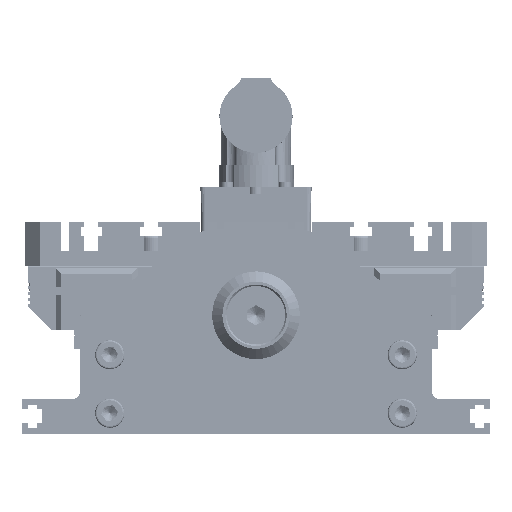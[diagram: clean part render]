
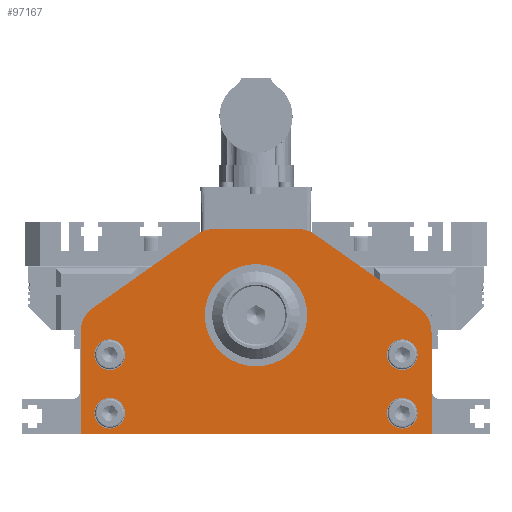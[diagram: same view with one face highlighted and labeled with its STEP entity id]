
A CAD part, front view. The second image highlights one B-rep face of the part: STEP entity #97167.
In plain terms, the highlighted planar face has unit normal (0, -1, 0).
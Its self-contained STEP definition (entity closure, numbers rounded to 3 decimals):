
#3342=FACE_BOUND('',#12644,.T.);
#3343=FACE_BOUND('',#12645,.T.);
#3344=FACE_BOUND('',#12646,.T.);
#3345=FACE_BOUND('',#12647,.T.);
#3346=FACE_BOUND('',#12648,.T.);
#7179=FACE_OUTER_BOUND('',#12643,.T.);
#12643=EDGE_LOOP('',(#79929,#79930,#79931,#79932,#79933,#79934,#79935,#79936,
#79937,#79938));
#12644=EDGE_LOOP('',(#79939,#79940));
#12645=EDGE_LOOP('',(#79941,#79942));
#12646=EDGE_LOOP('',(#79943,#79944));
#12647=EDGE_LOOP('',(#79945,#79946));
#12648=EDGE_LOOP('',(#79947,#79948));
#21171=LINE('',#161740,#29584);
#21173=LINE('',#161744,#29586);
#21174=LINE('',#161748,#29587);
#21175=LINE('',#161750,#29588);
#21176=LINE('',#161752,#29589);
#21177=LINE('',#161756,#29590);
#29584=VECTOR('',#128377,10.);
#29586=VECTOR('',#128381,10.);
#29587=VECTOR('',#128384,10.);
#29588=VECTOR('',#128385,10.);
#29589=VECTOR('',#128386,10.);
#29590=VECTOR('',#128389,10.);
#33921=CIRCLE('',#105271,10.);
#33922=CIRCLE('',#105274,10.);
#33923=CIRCLE('',#105275,10.);
#33924=CIRCLE('',#105276,10.);
#33925=CIRCLE('',#105277,5.25);
#33926=CIRCLE('',#105278,5.25);
#33927=CIRCLE('',#105279,5.25);
#33928=CIRCLE('',#105280,5.25);
#33929=CIRCLE('',#105281,5.25);
#33930=CIRCLE('',#105282,5.25);
#33931=CIRCLE('',#105283,5.25);
#33932=CIRCLE('',#105284,5.25);
#33933=CIRCLE('',#105285,17.5);
#33934=CIRCLE('',#105286,17.5);
#42627=VERTEX_POINT('',#161733);
#42628=VERTEX_POINT('',#161734);
#42629=VERTEX_POINT('',#161739);
#42630=VERTEX_POINT('',#161743);
#42631=VERTEX_POINT('',#161745);
#42632=VERTEX_POINT('',#161747);
#42633=VERTEX_POINT('',#161749);
#42634=VERTEX_POINT('',#161751);
#42635=VERTEX_POINT('',#161753);
#42636=VERTEX_POINT('',#161755);
#42637=VERTEX_POINT('',#161758);
#42638=VERTEX_POINT('',#161759);
#42639=VERTEX_POINT('',#161762);
#42640=VERTEX_POINT('',#161763);
#42641=VERTEX_POINT('',#161766);
#42642=VERTEX_POINT('',#161767);
#42643=VERTEX_POINT('',#161770);
#42644=VERTEX_POINT('',#161771);
#42645=VERTEX_POINT('',#161774);
#42646=VERTEX_POINT('',#161775);
#55516=EDGE_CURVE('',#42627,#42628,#33921,.T.);
#55519=EDGE_CURVE('',#42629,#42628,#21171,.T.);
#55521=EDGE_CURVE('',#42627,#42630,#21173,.T.);
#55522=EDGE_CURVE('',#42631,#42630,#33922,.T.);
#55523=EDGE_CURVE('',#42631,#42632,#21174,.T.);
#55524=EDGE_CURVE('',#42632,#42633,#21175,.T.);
#55525=EDGE_CURVE('',#42633,#42634,#21176,.T.);
#55526=EDGE_CURVE('',#42635,#42634,#33923,.T.);
#55527=EDGE_CURVE('',#42635,#42636,#21177,.T.);
#55528=EDGE_CURVE('',#42629,#42636,#33924,.T.);
#55529=EDGE_CURVE('',#42637,#42638,#33925,.T.);
#55530=EDGE_CURVE('',#42638,#42637,#33926,.T.);
#55531=EDGE_CURVE('',#42639,#42640,#33927,.T.);
#55532=EDGE_CURVE('',#42640,#42639,#33928,.T.);
#55533=EDGE_CURVE('',#42641,#42642,#33929,.T.);
#55534=EDGE_CURVE('',#42642,#42641,#33930,.T.);
#55535=EDGE_CURVE('',#42643,#42644,#33931,.T.);
#55536=EDGE_CURVE('',#42644,#42643,#33932,.T.);
#55537=EDGE_CURVE('',#42645,#42646,#33933,.T.);
#55538=EDGE_CURVE('',#42646,#42645,#33934,.T.);
#79929=ORIENTED_EDGE('',*,*,#55516,.F.);
#79930=ORIENTED_EDGE('',*,*,#55521,.T.);
#79931=ORIENTED_EDGE('',*,*,#55522,.F.);
#79932=ORIENTED_EDGE('',*,*,#55523,.T.);
#79933=ORIENTED_EDGE('',*,*,#55524,.T.);
#79934=ORIENTED_EDGE('',*,*,#55525,.T.);
#79935=ORIENTED_EDGE('',*,*,#55526,.F.);
#79936=ORIENTED_EDGE('',*,*,#55527,.T.);
#79937=ORIENTED_EDGE('',*,*,#55528,.F.);
#79938=ORIENTED_EDGE('',*,*,#55519,.T.);
#79939=ORIENTED_EDGE('',*,*,#55529,.T.);
#79940=ORIENTED_EDGE('',*,*,#55530,.T.);
#79941=ORIENTED_EDGE('',*,*,#55531,.T.);
#79942=ORIENTED_EDGE('',*,*,#55532,.T.);
#79943=ORIENTED_EDGE('',*,*,#55533,.T.);
#79944=ORIENTED_EDGE('',*,*,#55534,.T.);
#79945=ORIENTED_EDGE('',*,*,#55535,.T.);
#79946=ORIENTED_EDGE('',*,*,#55536,.T.);
#79947=ORIENTED_EDGE('',*,*,#55537,.T.);
#79948=ORIENTED_EDGE('',*,*,#55538,.T.);
#88034=PLANE('',#105273);
#97167=ADVANCED_FACE('',(#7179,#3342,#3343,#3344,#3345,#3346),#88034,.F.);
#105271=AXIS2_PLACEMENT_3D('',#161735,#128371,#128372);
#105273=AXIS2_PLACEMENT_3D('',#161742,#128379,#128380);
#105274=AXIS2_PLACEMENT_3D('',#161746,#128382,#128383);
#105275=AXIS2_PLACEMENT_3D('',#161754,#128387,#128388);
#105276=AXIS2_PLACEMENT_3D('',#161757,#128390,#128391);
#105277=AXIS2_PLACEMENT_3D('',#161760,#128392,#128393);
#105278=AXIS2_PLACEMENT_3D('',#161761,#128394,#128395);
#105279=AXIS2_PLACEMENT_3D('',#161764,#128396,#128397);
#105280=AXIS2_PLACEMENT_3D('',#161765,#128398,#128399);
#105281=AXIS2_PLACEMENT_3D('',#161768,#128400,#128401);
#105282=AXIS2_PLACEMENT_3D('',#161769,#128402,#128403);
#105283=AXIS2_PLACEMENT_3D('',#161772,#128404,#128405);
#105284=AXIS2_PLACEMENT_3D('',#161773,#128406,#128407);
#105285=AXIS2_PLACEMENT_3D('',#161776,#128408,#128409);
#105286=AXIS2_PLACEMENT_3D('',#161777,#128410,#128411);
#128371=DIRECTION('center_axis',(0.,1.,0.));
#128372=DIRECTION('ref_axis',(-0.303,0.,
0.953));
#128377=DIRECTION('',(-1.,0.,0.));
#128379=DIRECTION('center_axis',(0.,1.,0.));
#128380=DIRECTION('ref_axis',(1.,0.,0.));
#128381=DIRECTION('',(-0.817,0.,-0.577));
#128382=DIRECTION('center_axis',(0.,1.,0.));
#128383=DIRECTION('ref_axis',(-0.888,0.,
0.46));
#128384=DIRECTION('',(0.,0.,-1.));
#128385=DIRECTION('',(1.,0.,0.));
#128386=DIRECTION('',(0.,0.,1.));
#128387=DIRECTION('center_axis',(0.,1.,0.));
#128388=DIRECTION('ref_axis',(0.888,0.,0.46));
#128389=DIRECTION('',(-0.817,0.,0.577));
#128390=DIRECTION('center_axis',(0.,1.,0.));
#128391=DIRECTION('ref_axis',(0.303,0.,0.953));
#128392=DIRECTION('center_axis',(0.,1.,0.));
#128393=DIRECTION('ref_axis',(-1.,0.,0.));
#128394=DIRECTION('center_axis',(0.,1.,0.));
#128395=DIRECTION('ref_axis',(-1.,0.,0.));
#128396=DIRECTION('center_axis',(0.,1.,0.));
#128397=DIRECTION('ref_axis',(-1.,0.,0.));
#128398=DIRECTION('center_axis',(0.,1.,0.));
#128399=DIRECTION('ref_axis',(-1.,0.,0.));
#128400=DIRECTION('center_axis',(0.,1.,0.));
#128401=DIRECTION('ref_axis',(-1.,0.,0.));
#128402=DIRECTION('center_axis',(0.,1.,0.));
#128403=DIRECTION('ref_axis',(-1.,0.,0.));
#128404=DIRECTION('center_axis',(0.,1.,0.));
#128405=DIRECTION('ref_axis',(-1.,0.,0.));
#128406=DIRECTION('center_axis',(0.,1.,0.));
#128407=DIRECTION('ref_axis',(-1.,0.,0.));
#128408=DIRECTION('center_axis',(0.,1.,0.));
#128409=DIRECTION('ref_axis',(-1.,0.,0.));
#128410=DIRECTION('center_axis',(0.,1.,0.));
#128411=DIRECTION('ref_axis',(-1.,0.,0.));
#161733=CARTESIAN_POINT('',(-20.093,-225.,50.92));
#161734=CARTESIAN_POINT('',(-14.326,-225.,52.75));
#161735=CARTESIAN_POINT('Origin',(-14.326,-225.,42.75));
#161739=CARTESIAN_POINT('',(14.326,-225.,52.75));
#161740=CARTESIAN_POINT('',(60.,-225.,52.75));
#161742=CARTESIAN_POINT('Origin',(0.,-225.,17.75));
#161743=CARTESIAN_POINT('',(-55.767,-225.,25.738));
#161744=CARTESIAN_POINT('',(-41.155,-225.,36.053));
#161745=CARTESIAN_POINT('',(-60.,-225.,17.568));
#161746=CARTESIAN_POINT('Origin',(-50.,-225.,17.568));
#161747=CARTESIAN_POINT('',(-60.,-225.,-17.25));
#161748=CARTESIAN_POINT('',(-60.,-225.,52.75));
#161749=CARTESIAN_POINT('',(60.,-225.,-17.25));
#161750=CARTESIAN_POINT('',(-60.,-225.,-17.25));
#161751=CARTESIAN_POINT('',(60.,-225.,17.568));
#161752=CARTESIAN_POINT('',(60.,-225.,-17.25));
#161753=CARTESIAN_POINT('',(55.767,-225.,25.738));
#161754=CARTESIAN_POINT('Origin',(50.,-225.,17.568));
#161755=CARTESIAN_POINT('',(20.093,-225.,50.92));
#161756=CARTESIAN_POINT('',(19.905,-225.,51.053));
#161757=CARTESIAN_POINT('Origin',(14.326,-225.,42.75));
#161758=CARTESIAN_POINT('',(44.75,-225.,9.75));
#161759=CARTESIAN_POINT('',(55.25,-225.,9.75));
#161760=CARTESIAN_POINT('Origin',(50.,-225.,9.75));
#161761=CARTESIAN_POINT('Origin',(50.,-225.,9.75));
#161762=CARTESIAN_POINT('',(-55.25,-225.,-10.25));
#161763=CARTESIAN_POINT('',(-44.75,-225.,-10.25));
#161764=CARTESIAN_POINT('Origin',(-50.,-225.,-10.25));
#161765=CARTESIAN_POINT('Origin',(-50.,-225.,-10.25));
#161766=CARTESIAN_POINT('',(-55.25,-225.,9.75));
#161767=CARTESIAN_POINT('',(-44.75,-225.,9.75));
#161768=CARTESIAN_POINT('Origin',(-50.,-225.,9.75));
#161769=CARTESIAN_POINT('Origin',(-50.,-225.,9.75));
#161770=CARTESIAN_POINT('',(44.75,-225.,-10.25));
#161771=CARTESIAN_POINT('',(55.25,-225.,-10.25));
#161772=CARTESIAN_POINT('Origin',(50.,-225.,-10.25));
#161773=CARTESIAN_POINT('Origin',(50.,-225.,-10.25));
#161774=CARTESIAN_POINT('',(-17.5,-225.,23.25));
#161775=CARTESIAN_POINT('',(17.5,-225.,23.25));
#161776=CARTESIAN_POINT('Origin',(0.,-225.,23.25));
#161777=CARTESIAN_POINT('Origin',(0.,-225.,23.25));
